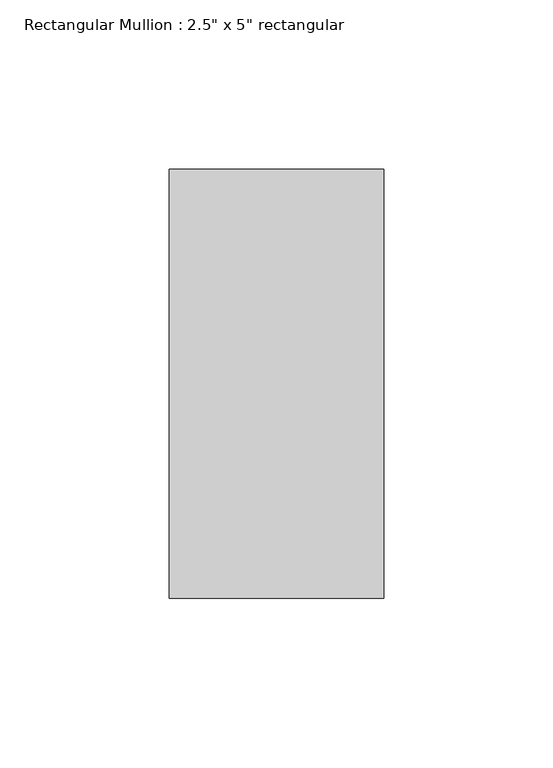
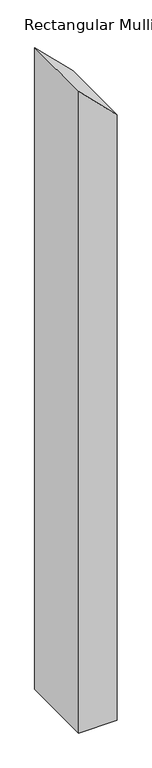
"""IFC4 building model written with IfcOpenShell, lengths in millimetres: member geometry."""

from ifc_helpers import new_model, si_unit, frame, origin, place, context, project, spatial, polyline, outline, extrude, source, transform, mapped, element, save


def member_5b33d227(model_context):
    return source(origin(), model_context, "Body", "SweptSolid", [
        extrude(outline(polyline([(-121.5525612, 31.75), (-58.0525612, -31.75), (-1187.4500002, -31.75), (-1187.4500002, 31.75), (-121.5525612, 31.75)])), frame((0.0, -63.5, 0.0), z_axis=(0.0, 1.0, 0.0), x_axis=(0.0, 0.0, 1.0)), (0.0, 0.0, 1.0), 127.0),
    ])


if __name__ == "__main__":
    model = new_model("IFC4")
    model_context = context("Model", 3, world=origin())
    ifc_project = project(units=[si_unit("LENGTHUNIT", "METRE", prefix="MILLI")], contexts=[model_context])
    site = spatial("IfcSite", under=ifc_project)
    building = spatial("IfcBuilding", under=site)
    placement = place(None, origin())
    member_shape = member_5b33d227(model_context)
    element("IfcMember", 1, ObjectType="Rectangular Mullion : 2.5\" x 5\" rectangular", at=placement, inside=building, context=model_context, shape_type="MappedRepresentation", body=[
        mapped(member_shape, transform((0.0, 0.0, 0.0), x_axis=(1.0, 0.0, 0.0), y_axis=(0.0, 1.0, 0.0), z_axis=(0.0, 0.0, 1.0))),
    ])
    save(model, "model.ifc")
